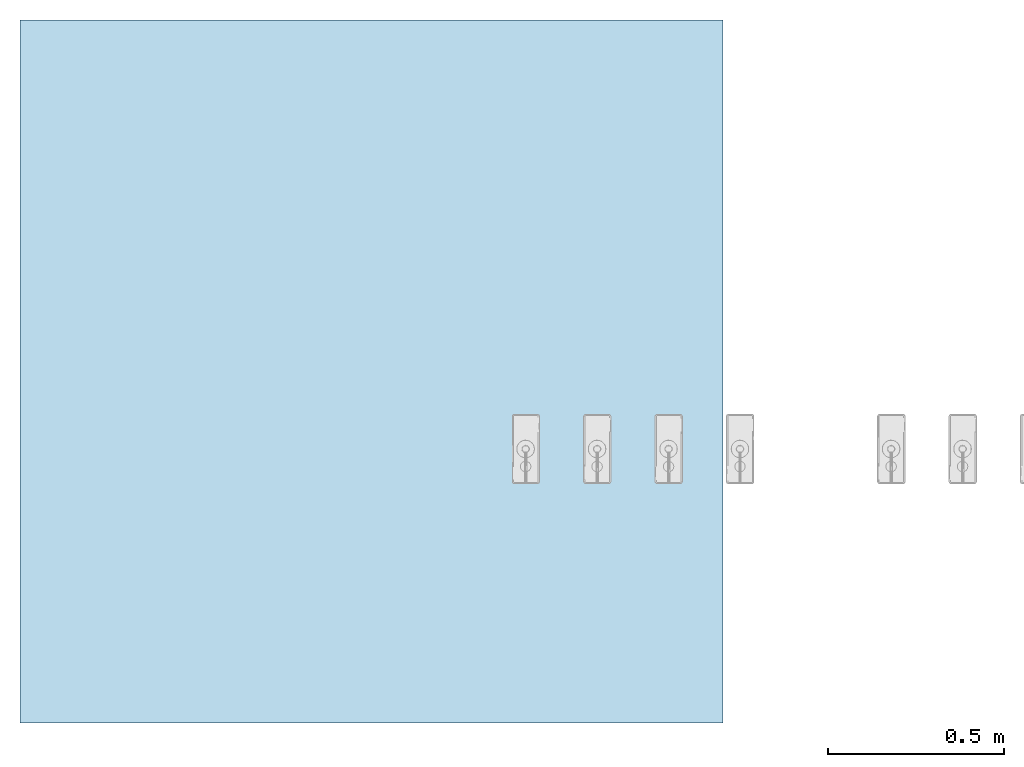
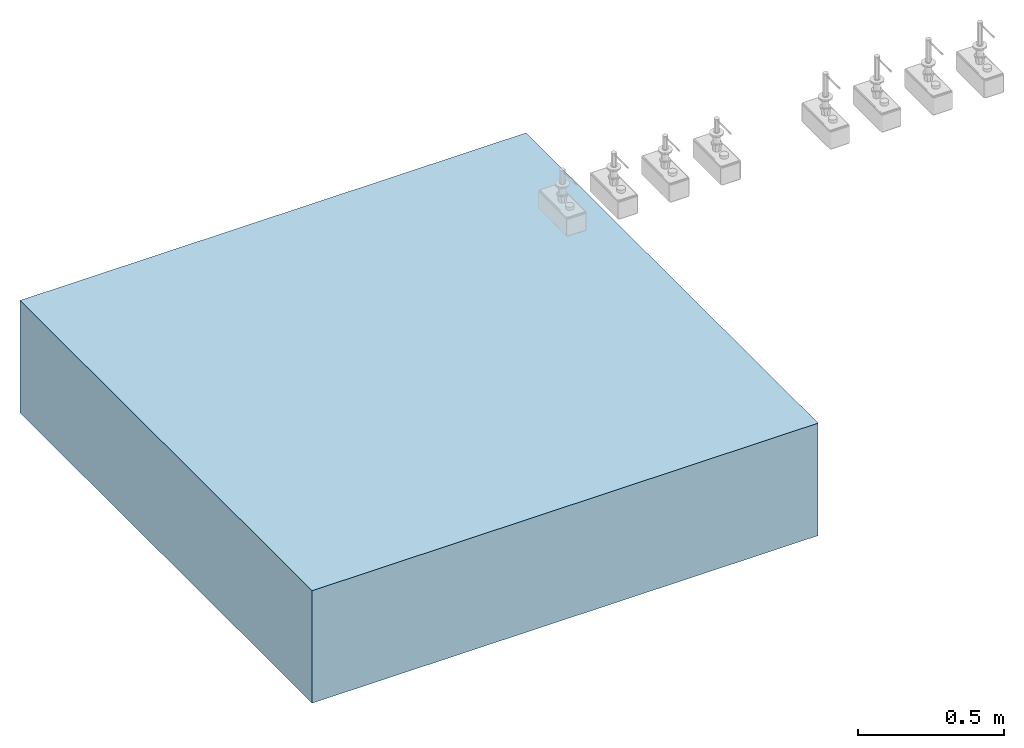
# One storey, incomplete: 1 slab.
"""IFC2X3 building model written with IfcOpenShell, lengths in millimetres."""

from ifc_helpers import new_model, entity, si_unit, converted_unit, derived_unit, direction, frame, origin, origin_2d_with_axis, place, context, subcontext, project, spatial, rectangle, extrude, material, layer, layer_set, layer_usage, type_object, element, save


model = new_model("IFC2X3")

# Units and contexts
model_context = context("Model", 3, precision=0.01, world=origin(), true_north=direction((6.123031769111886e-17, 1.0)))
body_context = subcontext(model_context, "Body", "Model", "MODEL_VIEW")
ifc_project = project(units=[si_unit("LENGTHUNIT", "METRE", prefix="MILLI"), si_unit("AREAUNIT", "SQUARE_METRE"), si_unit("VOLUMEUNIT", "CUBIC_METRE"), converted_unit("PLANEANGLEUNIT", "DEGREE", entity("IfcPlaneAngleMeasure", 0.017453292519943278), si_unit("PLANEANGLEUNIT", "RADIAN"), dimensions=[0, 0, 0, 0, 0, 0, 0]), si_unit("MASSUNIT", "GRAM", prefix="KILO"), derived_unit("MASSDENSITYUNIT", [(si_unit("MASSUNIT", "GRAM", prefix="KILO"), 1), (si_unit("LENGTHUNIT", "METRE"), -3)]), derived_unit("IONCONCENTRATIONUNIT", [(si_unit("MASSUNIT", "GRAM", prefix="KILO"), 1), (si_unit("LENGTHUNIT", "METRE"), -3)]), derived_unit("MOMENTOFINERTIAUNIT", [(si_unit("LENGTHUNIT", "METRE"), 4)]), si_unit("TIMEUNIT", "SECOND"), si_unit("FREQUENCYUNIT", "HERTZ"), si_unit("THERMODYNAMICTEMPERATUREUNIT", "DEGREE_CELSIUS"), derived_unit("THERMALTRANSMITTANCEUNIT", [(si_unit("MASSUNIT", "GRAM", prefix="KILO"), 1), (si_unit("THERMODYNAMICTEMPERATUREUNIT", "KELVIN"), -1), (si_unit("TIMEUNIT", "SECOND"), -3)]), derived_unit("THERMALCONDUCTANCEUNIT", [(si_unit("MASSUNIT", "GRAM", prefix="KILO"), 1), (si_unit("THERMODYNAMICTEMPERATUREUNIT", "KELVIN"), -1), (si_unit("TIMEUNIT", "SECOND"), -3), (si_unit("LENGTHUNIT", "METRE"), 1)]), derived_unit("VOLUMETRICFLOWRATEUNIT", [(si_unit("LENGTHUNIT", "METRE", prefix="DECI"), 3), (si_unit("TIMEUNIT", "SECOND"), -1)]), derived_unit("MASSFLOWRATEUNIT", [(si_unit("MASSUNIT", "GRAM", prefix="KILO"), 1), (si_unit("TIMEUNIT", "SECOND"), -1)]), derived_unit("ROTATIONALFREQUENCYUNIT", [(si_unit("TIMEUNIT", "SECOND"), -1)]), si_unit("ELECTRICCURRENTUNIT", "AMPERE"), si_unit("ELECTRICVOLTAGEUNIT", "VOLT"), si_unit("POWERUNIT", "WATT"), si_unit("FORCEUNIT", "NEWTON", prefix="KILO"), si_unit("ILLUMINANCEUNIT", "LUX"), si_unit("LUMINOUSFLUXUNIT", "LUMEN"), si_unit("LUMINOUSINTENSITYUNIT", "CANDELA"), si_unit("ENERGYUNIT", "JOULE"), derived_unit("USERDEFINED", [(si_unit("MASSUNIT", "GRAM", prefix="KILO"), -1), (si_unit("LENGTHUNIT", "METRE"), -2), (si_unit("TIMEUNIT", "SECOND"), 3), (si_unit("LUMINOUSFLUXUNIT", "LUMEN"), 1)]), derived_unit("USERDEFINED", [(si_unit("MASSUNIT", "GRAM", prefix="KILO"), 1), (si_unit("TIMEUNIT", "SECOND"), -3), (si_unit("LENGTHUNIT", "METRE"), 3), (si_unit("ELECTRICCURRENTUNIT", "AMPERE"), -2)]), derived_unit("SOUNDPOWERUNIT", [(si_unit("MASSUNIT", "GRAM", prefix="KILO"), 1), (si_unit("TIMEUNIT", "SECOND"), -3), (si_unit("LENGTHUNIT", "METRE"), 2)]), derived_unit("SOUNDPRESSUREUNIT", [(si_unit("MASSUNIT", "GRAM", prefix="KILO"), 1), (si_unit("LENGTHUNIT", "METRE"), -1), (si_unit("TIMEUNIT", "SECOND"), -2)]), derived_unit("LINEARVELOCITYUNIT", [(si_unit("LENGTHUNIT", "METRE"), 1), (si_unit("TIMEUNIT", "SECOND"), -1)]), si_unit("PRESSUREUNIT", "PASCAL"), derived_unit("USERDEFINED", [(si_unit("MASSUNIT", "GRAM", prefix="KILO"), 1), (si_unit("LENGTHUNIT", "METRE"), -2), (si_unit("TIMEUNIT", "SECOND"), -2)]), derived_unit("LINEARFORCEUNIT", [(si_unit("MASSUNIT", "GRAM", prefix="KILO"), 1), (si_unit("TIMEUNIT", "SECOND"), -2)]), derived_unit("PLANARFORCEUNIT", [(si_unit("MASSUNIT", "GRAM", prefix="KILO"), 1), (si_unit("LENGTHUNIT", "METRE"), -1), (si_unit("TIMEUNIT", "SECOND"), -2)]), derived_unit("SPECIFICHEATCAPACITYUNIT", [(si_unit("THERMODYNAMICTEMPERATUREUNIT", "KELVIN"), -1), (si_unit("LENGTHUNIT", "METRE"), 2), (si_unit("TIMEUNIT", "SECOND"), -2)]), derived_unit("HEATFLUXDENSITYUNIT", [(si_unit("MASSUNIT", "GRAM", prefix="KILO"), 1), (si_unit("TIMEUNIT", "SECOND"), -3)]), derived_unit("HEATINGVALUEUNIT", [(si_unit("LENGTHUNIT", "METRE"), 2), (si_unit("TIMEUNIT", "SECOND"), -2)]), derived_unit("VAPORPERMEABILITYUNIT", [(si_unit("LENGTHUNIT", "METRE"), -1), (si_unit("TIMEUNIT", "SECOND"), 1)]), derived_unit("DYNAMICVISCOSITYUNIT", [(si_unit("MASSUNIT", "GRAM", prefix="KILO"), 1), (si_unit("TIMEUNIT", "SECOND"), -1), (si_unit("LENGTHUNIT", "METRE"), -1)]), derived_unit("THERMALEXPANSIONCOEFFICIENTUNIT", [(si_unit("THERMODYNAMICTEMPERATUREUNIT", "KELVIN"), -1)]), derived_unit("MODULUSOFELASTICITYUNIT", [(si_unit("MASSUNIT", "GRAM", prefix="KILO"), 1), (si_unit("LENGTHUNIT", "METRE"), -1), (si_unit("TIMEUNIT", "SECOND"), -2)]), derived_unit("ISOTHERMALMOISTURECAPACITYUNIT", [(si_unit("MASSUNIT", "GRAM", prefix="KILO"), -1), (si_unit("LENGTHUNIT", "METRE"), 3)]), derived_unit("MOISTUREDIFFUSIVITYUNIT", [(si_unit("TIMEUNIT", "SECOND"), -1), (si_unit("LENGTHUNIT", "METRE"), 2)]), derived_unit("MASSPERLENGTHUNIT", [(si_unit("MASSUNIT", "GRAM", prefix="KILO"), 1), (si_unit("LENGTHUNIT", "METRE"), -1)]), derived_unit("THERMALRESISTANCEUNIT", [(si_unit("MASSUNIT", "GRAM", prefix="KILO"), -1), (si_unit("TIMEUNIT", "SECOND"), 3), (si_unit("THERMODYNAMICTEMPERATUREUNIT", "KELVIN"), 1)]), derived_unit("ACCELERATIONUNIT", [(si_unit("LENGTHUNIT", "METRE"), 1), (si_unit("TIMEUNIT", "SECOND"), -2)]), derived_unit("ANGULARVELOCITYUNIT", [(si_unit("TIMEUNIT", "SECOND"), -1), (si_unit("PLANEANGLEUNIT", "RADIAN"), 1)]), derived_unit("LINEARSTIFFNESSUNIT", [(si_unit("MASSUNIT", "GRAM", prefix="KILO"), 1), (si_unit("TIMEUNIT", "SECOND"), -2)]), derived_unit("WARPINGCONSTANTUNIT", [(si_unit("LENGTHUNIT", "METRE"), 6)]), derived_unit("LINEARMOMENTUNIT", [(si_unit("MASSUNIT", "GRAM", prefix="KILO"), 1), (si_unit("LENGTHUNIT", "METRE"), 1), (si_unit("TIMEUNIT", "SECOND"), -2)]), derived_unit("TORQUEUNIT", [(si_unit("MASSUNIT", "GRAM", prefix="KILO"), 1), (si_unit("LENGTHUNIT", "METRE"), 2), (si_unit("TIMEUNIT", "SECOND"), -2)])], contexts=[model_context])

# Site, building, storey
site_placement = place(None, origin())
site = spatial("IfcSite", under=ifc_project, at=site_placement, Name="Default", CompositionType="ELEMENT")
building_placement = place(site_placement, origin())
building = spatial("IfcBuilding", under=site, at=building_placement, Name="n/a", CompositionType="ELEMENT")
storey_placement = place(building_placement, origin())
storey = spatial("IfcBuildingStorey", under=building, at=storey_placement, Name="Level 0", CompositionType="ELEMENT", Elevation=0.0)

# Slab
ifc_material_1 = material(Name="Concrete, Sand/Cement Screed")
ifc_layer_1 = layer(ifc_material_1, 65.0)
ifc_material_2 = material(Name="Rigid insulation")
ifc_layer_2 = layer(ifc_material_2, 80.0)
ifc_material_3 = material(Name="Air")
ifc_layer_3 = layer(ifc_material_3, 150.0)
ifc_material_4 = material(Name="Concrete Masonry, Floor Block")
ifc_layer_4 = layer(ifc_material_4, 100.0)
ifc_material_5 = material(Name="Concrete, Precast")
ifc_layer_5 = layer(ifc_material_5, 75.0)
ifc_layer_set = layer_set([ifc_layer_1, ifc_layer_2, ifc_layer_3, ifc_layer_4, ifc_layer_5], Name="Floor:Floor-Grnd-Susp_65Scr-80Ins-100Blk-75PC")
ifc_layer_usage = layer_usage(ifc_layer_set, "AXIS3", "POSITIVE", 0.0)
slab_type = type_object("IfcSlabType", Name="Floor:Floor-Grnd-Susp_65Scr-80Ins-100Blk-75PC", PredefinedType="FLOOR", material=ifc_layer_set)
slab_placement = place(storey_placement, origin())
element("IfcSlab", 1, at=slab_placement, inside=storey, type_object=slab_type, material=ifc_layer_usage, Name="Floor:Floor-Grnd-Susp_65Scr-80Ins-100Blk-75PC", ObjectType="Floor:Floor-Grnd-Susp_65Scr-80Ins-100Blk-75PC", PredefinedType="FLOOR", context=body_context, shape_type="SweptSolid", body=[
    extrude(rectangle(XDim=2000.0000000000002, YDim=2000.0000000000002, at=origin_2d_with_axis()), frame((2617.8954202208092, 511.02004687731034, 0.0), z_axis=(0.0, 0.0, -1.0), x_axis=(0.0, 1.0, 0.0)), (0.0, 0.0, 1.0), 470.0),
])

save(model, "model.ifc")
